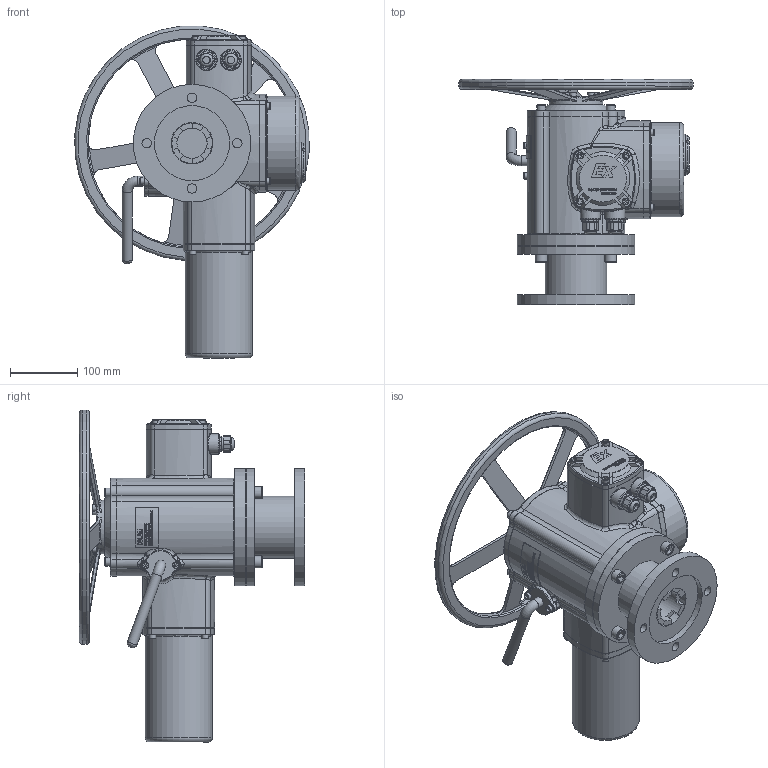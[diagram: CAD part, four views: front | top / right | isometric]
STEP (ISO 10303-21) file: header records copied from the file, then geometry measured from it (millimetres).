
FILE_DESCRIPTION(/* description */ ('D300-04893','CAx-IF Rec.Pracs.---Representation and Presentation of Product Manufacturing Information (PMI)---4.0---2014-10-13'),/* implementation_level */ '2;1');
FILE_NAME(/* name */ '',/* time_stamp */ '2026-03-16T01:27:37+03:00',/* author */ ('DN.RU'),/* organization */ ('DN.RU'),/* preprocessor_version */ 'ST-DEVELOPER v20',/* originating_system */ 'Autodesk Inventor 2025',/* authorisation */ '');
FILE_SCHEMA (('AP242_MANAGED_MODEL_BASED_3D_ENGINEERING_MIM_LF { 1 0 10303 442 1 1 4 }'));
Length unit declared in the file: millimetre
Products named in the file (1): MT-N-030EM-O2-220VAC-У1
Bounding box: 349.13 x 335.5 x 494.56 mm (x, y, z)
Volume: 9578995.3 mm3; surface area: 678236.5 mm2
Topology: 1 solids, 7 shells, 2260 faces, 5966 edges, 3899 vertices
Faces by surface type: plane 1049, bspline 569, cylinder 379, torus 151, cone 106, sphere 6
Full cylindrical faces by diameter (mm): 2.224 x1, 2.5 x1, 3 x1, 6 x12, 7 x7, 8 x4, 10 x19, 10.772 x2, 12 x4, 13 x4, 14 x4, 15 x2, 16 x4, 18 x4, 18.963 x2, 21.521 x2, 30 x2, 32.618 x1, 38 x1, 39.966 x1, 40 x2, 40.456 x1, 42 x1, 45 x1, 50 x1, 60 x1, 60.335 x1, 60.968 x1, 62 x1, 76.454 x1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
Entity records: 90007 total; most frequent: CARTESIAN_POINT 35274, ORIENTED_EDGE 11846, DIRECTION 9433, EDGE_CURVE 5923, VERTEX_POINT 3899, AXIS2_PLACEMENT_3D 3363, LINE 2707, VECTOR 2707
